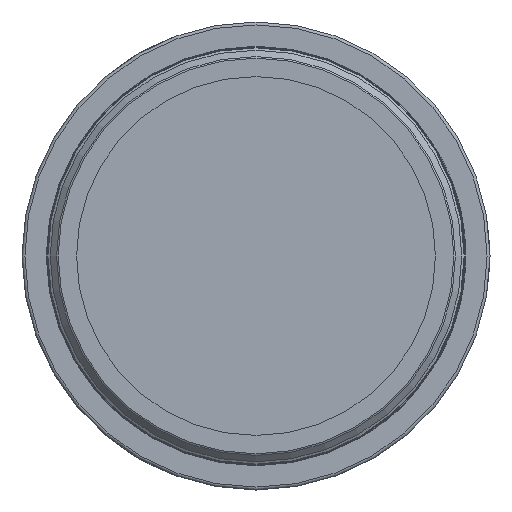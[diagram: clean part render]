
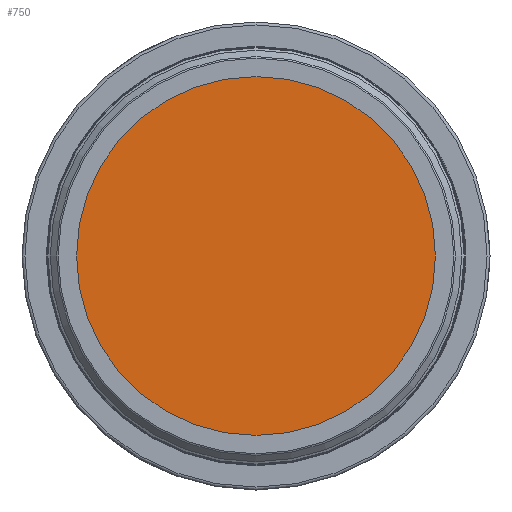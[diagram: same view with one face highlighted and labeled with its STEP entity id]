
A CAD part, left-side view. The second image highlights one B-rep face of the part: STEP entity #750.
In plain terms, the highlighted planar face has unit normal (-1, 0, 0).
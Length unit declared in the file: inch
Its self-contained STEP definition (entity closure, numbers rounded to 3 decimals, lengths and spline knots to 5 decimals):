
#750 = ADVANCED_FACE( '', ( #1696 ), #1697, .T. );
#1696 = FACE_OUTER_BOUND( '', #3780, .T. );
#1697 = PLANE( '', #3781 );
#3780 = EDGE_LOOP( '', ( #6287 ) );
#3781 = AXIS2_PLACEMENT_3D( '', #6288, #6289, #6290 );
#6287 = ORIENTED_EDGE( '', *, *, #7652, .T. );
#6288 = CARTESIAN_POINT( '', ( 0.25, 0., 1.917 ) );
#6289 = DIRECTION( '', ( -1., 0., 0. ) );
#6290 = DIRECTION( '', ( 0., 0., 1. ) );
#7652 = EDGE_CURVE( '', #9001, #9001, #9002, .T. );
#9001 = VERTEX_POINT( '', #11867 );
#9002 = CIRCLE( '', #11868, 1.917 );
#11867 = CARTESIAN_POINT( '', ( 0.25, 0., 1.917 ) );
#11868 = AXIS2_PLACEMENT_3D( '', #12933, #12934, #12935 );
#12933 = CARTESIAN_POINT( '', ( 0.25, 0., 0. ) );
#12934 = DIRECTION( '', ( -1., 0., 0. ) );
#12935 = DIRECTION( '', ( 0., 0., 1. ) );
